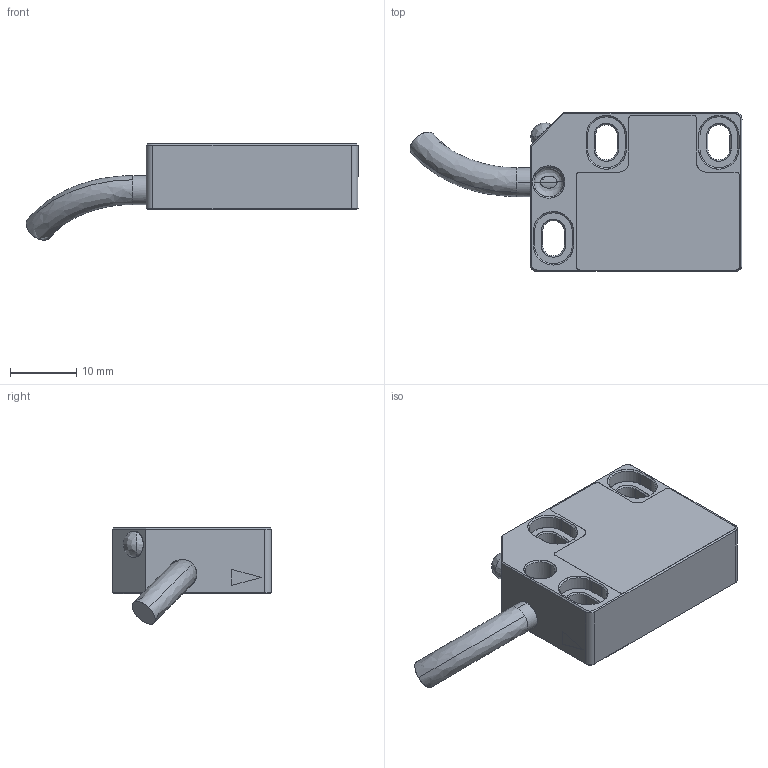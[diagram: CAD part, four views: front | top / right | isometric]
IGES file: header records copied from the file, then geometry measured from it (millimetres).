
Start section: SolidWorks IGES file using analytic representation for surfaces
Global section: file name: D:\Dokumenti\MOJI-DOKUMENTI2009-jan-jun\SWdatoteke\LM10\3Dpredstavitveni-modeli\new\LM10-reading-head.IGS; native system: SolidWorks 2009; preprocessor: SolidWorks 2009; author: cerar; date: 090519.113245; units: millimetre
Bounding box: 50.16 x 24 x 14.58 mm (x, y, z)
Surface area: 3301.6 mm2 (no closed solid volume)
Topology: 0 solids, 0 shells, 167 faces, 1600 edges, 1600 vertices
Faces by surface type: bspline 93, revolution 74
